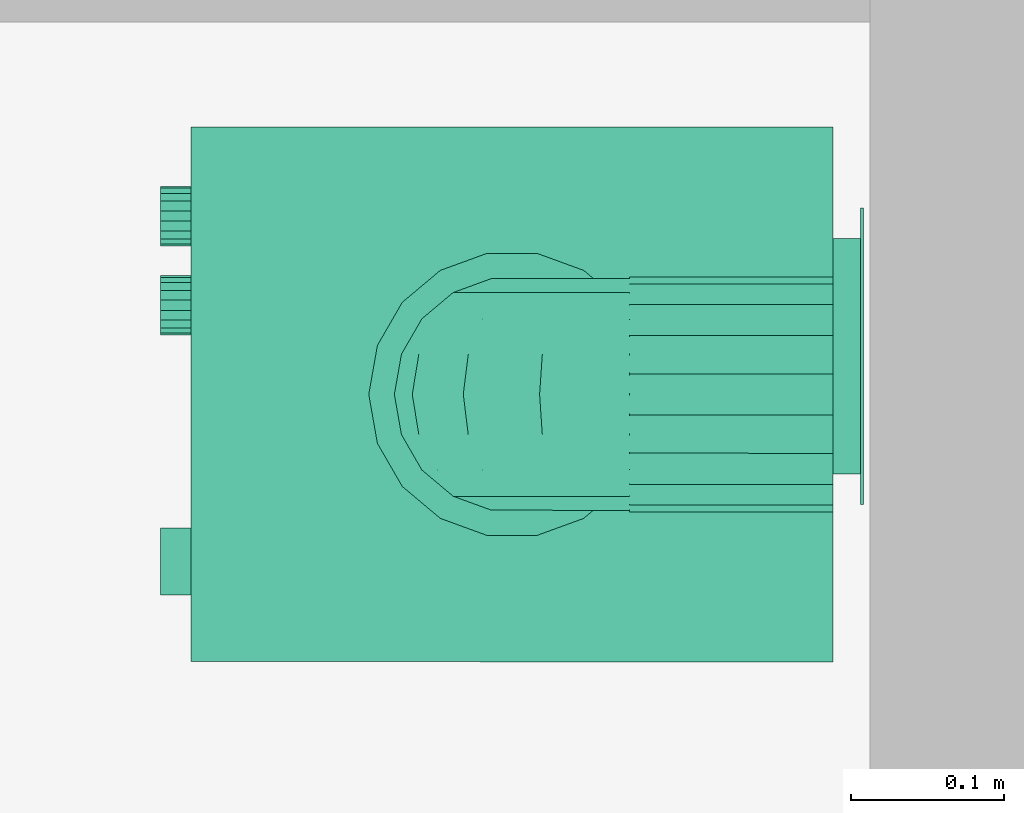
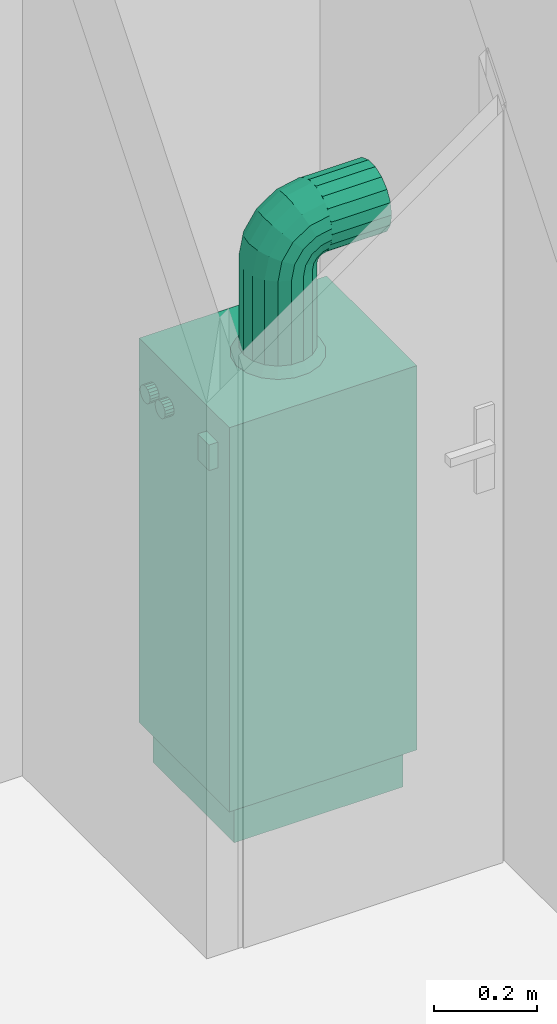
# One storey, part 108 of 164: 1 distribution element.
"""IFC2X3 building model written with IfcOpenShell, lengths in millimetres."""

from ifc_helpers import new_model, entity, si_unit, converted_unit, derived_unit, money_unit, direction, frame, origin_with_axes, place, context, subcontext, project, spatial, open_shell, faceted_brep, surface_model, source, transform, mapped, type_object, element, save


model = new_model("IFC2X3")

# Units and contexts
model_context = context("Model", 3, precision=0.01, world=origin_with_axes(), true_north=direction((0.0, 1.0)))
body_context = subcontext(model_context, "Body", "Model", "MODEL_VIEW")
ifc_project = project(units=[si_unit("LENGTHUNIT", "METRE", prefix="MILLI"), si_unit("AREAUNIT", "SQUARE_METRE"), si_unit("VOLUMEUNIT", "CUBIC_METRE"), converted_unit("PLANEANGLEUNIT", "DEGREE", entity("IfcPlaneAngleMeasure", 0.0174532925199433), si_unit("PLANEANGLEUNIT", "RADIAN"), dimensions=[0, 0, 0, 0, 0, 0, 0]), money_unit("USD"), converted_unit("TIMEUNIT", "Year", entity("IfcTimeMeasure", 31557600.0), si_unit("TIMEUNIT", "SECOND"), dimensions=[0, 0, 1, 0, 0, 0, 0]), si_unit("MASSUNIT", "GRAM", prefix="KILO"), si_unit("THERMODYNAMICTEMPERATUREUNIT", "DEGREE_CELSIUS"), si_unit("LUMINOUSINTENSITYUNIT", "LUMEN"), si_unit("ENERGYUNIT", "JOULE", prefix="MEGA"), derived_unit("THERMALCONDUCTANCEUNIT", [(si_unit("POWERUNIT", "WATT"), 1), (si_unit("LENGTHUNIT", "METRE"), -1), (si_unit("THERMODYNAMICTEMPERATUREUNIT", "KELVIN"), -1)]), derived_unit("SPECIFICHEATCAPACITYUNIT", [(si_unit("ENERGYUNIT", "JOULE"), 1), (si_unit("MASSUNIT", "GRAM", prefix="KILO"), -1), (si_unit("THERMODYNAMICTEMPERATUREUNIT", "KELVIN"), -1)]), derived_unit("MASSDENSITYUNIT", [(si_unit("MASSUNIT", "GRAM", prefix="KILO"), 1), (si_unit("VOLUMEUNIT", "CUBIC_METRE"), -1)])], contexts=[model_context])

# Site, building, storey
site_placement = place(None, origin_with_axes())
site = spatial("IfcSite", under=ifc_project, at=site_placement, Name="Site", CompositionType="ELEMENT")
building_placement = place(site_placement, origin_with_axes())
building = spatial("IfcBuilding", under=site, at=building_placement, Name="Bâtiment", CompositionType="ELEMENT")
storey_placement = place(building_placement, frame((0.0, 0.0, 5750.0), z_axis=(0.0, 0.0, 1.0), x_axis=(1.0, 0.0, 0.0)))
storey = spatial("IfcBuildingStorey", under=building, at=storey_placement, Name="Etage1", CompositionType="ELEMENT", Elevation=5750.0)

# Distribution element
distribution_element_type = type_object("IfcDistributionElementType", Name="Chaudière à gaz 27")
shared_shape = source(origin_with_axes(), body_context, "Body", "SurfaceModel", [
    surface_model("IfcShellBasedSurfaceModel", [(-200.0, 420.0, 34.90909090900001), (-200.0, 438.0, 34.90909090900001), (-180.0709335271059, 438.0, 37.53280228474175), (-180.0709335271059, 420.0, 37.53280228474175), (-219.9290664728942, 420.0, 37.53280228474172), (-219.9290664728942, 438.0, 37.53280228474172), (-161.5, 438.0, 45.22513481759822), (-161.5, 420.0, 45.22513481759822), (-238.5000000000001, 420.0, 45.22513481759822), (-238.5000000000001, 438.0, 45.22513481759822), (-145.5527778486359, 438.0, 57.46186875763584), (-145.5527778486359, 420.0, 57.46186875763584), (-254.4472221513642, 420.0, 57.46186875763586), (-254.4472221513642, 438.0, 57.46186875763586), (-133.3160439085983, 438.0, 73.409090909), (-133.3160439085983, 420.0, 73.409090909), (-266.6839560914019, 420.0, 73.40909090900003), (-266.6839560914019, 438.0, 73.40909090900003), (-125.6237113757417, 438.0, 91.9800244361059), (-125.6237113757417, 420.0, 91.9800244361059), (-274.3762886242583, 420.0, 91.98002443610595), (-274.3762886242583, 438.0, 91.98002443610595), (-123.0, 438.0, 111.909090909), (-123.0, 420.0, 111.909090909), (-277.0, 420.0, 111.909090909), (-277.0, 438.0, 111.909090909), (-125.6237113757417, 438.0, 131.8381573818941), (-125.6237113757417, 420.0, 131.8381573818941), (-274.3762886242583, 420.0, 131.8381573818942), (-274.3762886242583, 438.0, 131.8381573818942), (-133.3160439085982, 438.0, 150.409090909), (-133.3160439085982, 420.0, 150.409090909), (-266.6839560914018, 420.0, 150.4090909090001), (-266.6839560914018, 438.0, 150.4090909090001), (-145.5527778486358, 438.0, 166.3563130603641), (-145.5527778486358, 420.0, 166.3563130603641), (-254.4472221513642, 420.0, 166.3563130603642), (-254.4472221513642, 438.0, 166.3563130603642), (-161.5, 438.0, 178.5930470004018), (-161.5, 420.0, 178.5930470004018), (-238.5, 420.0, 178.5930470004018), (-238.5, 438.0, 178.5930470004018), (-180.0709335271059, 438.0, 186.2853795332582), (-180.0709335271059, 420.0, 186.2853795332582), (-219.929066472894, 420.0, 186.2853795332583), (-219.929066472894, 438.0, 186.2853795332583), (-200.0, 438.0, 188.909090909), (-200.0, 420.0, 188.909090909)], [open_shell([[[0, 1, 2, 3]], [[4, 5, 1, 0]], [[3, 2, 6, 7]], [[8, 9, 5, 4]], [[7, 6, 10, 11]], [[12, 13, 9, 8]], [[11, 10, 14, 15]], [[16, 17, 13, 12]], [[15, 14, 18, 19]], [[20, 21, 17, 16]], [[19, 18, 22, 23]], [[24, 25, 21, 20]], [[23, 22, 26, 27]], [[28, 29, 25, 24]], [[27, 26, 30, 31]], [[32, 33, 29, 28]], [[31, 30, 34, 35]], [[36, 37, 33, 32]], [[35, 34, 38, 39]], [[40, 41, 37, 36]], [[39, 38, 42, 43]], [[44, 45, 41, 40]], [[43, 42, 46, 47]], [[47, 46, 45, 44]]])]),
    faceted_brep([(-200.0, 438.0, 14.909090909), (-200.0, 440.0, 14.909090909), (-174.8945526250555, 440.0, 18.21428575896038), (-174.8945526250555, 438.0, 18.21428575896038), (-225.1054473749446, 438.0, 18.21428575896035), (-225.1054473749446, 440.0, 18.21428575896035), (-248.5000000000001, 440.0, 27.90462674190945), (-268.5893577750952, 440.0, 43.31973313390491), (-284.0044641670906, 440.0, 63.40909090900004), (-293.6948051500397, 440.0, 86.80364353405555), (-297.0000000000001, 440.0, 111.909090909), (-293.6948051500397, 440.0, 137.0145382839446), (-284.0044641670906, 440.0, 160.4090909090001), (-268.5893577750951, 440.0, 180.4984486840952), (-248.5, 440.0, 195.9135550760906), (-225.1054473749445, 440.0, 205.6038960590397), (-199.9999999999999, 440.0, 208.909090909), (-174.8945526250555, 440.0, 205.6038960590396), (-151.5, 440.0, 195.9135550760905), (-131.4106422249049, 440.0, 180.4984486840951), (-115.9955358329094, 440.0, 160.409090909), (-106.3051948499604, 440.0, 137.0145382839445), (-103.0, 440.0, 111.909090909), (-106.3051948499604, 440.0, 86.80364353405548), (-115.9955358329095, 440.0, 63.40909090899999), (-131.4106422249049, 440.0, 43.31973313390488), (-151.5, 440.0, 27.90462674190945), (-200.0, 440.0, 34.90909090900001), (-180.0709335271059, 440.0, 37.53280228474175), (-161.5, 440.0, 45.22513481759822), (-145.5527778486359, 440.0, 57.46186875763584), (-133.3160439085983, 440.0, 73.409090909), (-125.6237113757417, 440.0, 91.9800244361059), (-123.0, 440.0, 111.909090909), (-125.6237113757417, 440.0, 131.8381573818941), (-133.3160439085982, 440.0, 150.409090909), (-145.5527778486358, 440.0, 166.3563130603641), (-161.5, 440.0, 178.5930470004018), (-180.0709335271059, 440.0, 186.2853795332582), (-200.0, 440.0, 188.909090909), (-219.929066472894, 440.0, 186.2853795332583), (-238.5, 440.0, 178.5930470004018), (-254.4472221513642, 440.0, 166.3563130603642), (-266.6839560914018, 440.0, 150.4090909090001), (-274.3762886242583, 440.0, 131.8381573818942), (-277.0, 440.0, 111.909090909), (-274.3762886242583, 440.0, 91.98002443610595), (-266.6839560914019, 440.0, 73.40909090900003), (-254.4472221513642, 440.0, 57.46186875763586), (-238.5000000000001, 440.0, 45.22513481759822), (-219.9290664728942, 440.0, 37.53280228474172), (-151.5, 438.0, 27.90462674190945), (-131.4106422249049, 438.0, 43.31973313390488), (-115.9955358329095, 438.0, 63.40909090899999), (-106.3051948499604, 438.0, 86.80364353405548), (-103.0, 438.0, 111.909090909), (-106.3051948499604, 438.0, 137.0145382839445), (-115.9955358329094, 438.0, 160.409090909), (-131.4106422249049, 438.0, 180.4984486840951), (-151.5, 438.0, 195.9135550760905), (-174.8945526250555, 438.0, 205.6038960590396), (-199.9999999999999, 438.0, 208.909090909), (-225.1054473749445, 438.0, 205.6038960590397), (-248.5, 438.0, 195.9135550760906), (-268.5893577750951, 438.0, 180.4984486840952), (-284.0044641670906, 438.0, 160.4090909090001), (-293.6948051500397, 438.0, 137.0145382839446), (-297.0000000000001, 438.0, 111.909090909), (-293.6948051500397, 438.0, 86.80364353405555), (-284.0044641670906, 438.0, 63.40909090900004), (-268.5893577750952, 438.0, 43.31973313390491), (-248.5000000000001, 438.0, 27.90462674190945), (-200.0, 438.0, 34.90909090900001), (-219.9290664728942, 438.0, 37.53280228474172), (-238.5000000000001, 438.0, 45.22513481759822), (-254.4472221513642, 438.0, 57.46186875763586), (-266.6839560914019, 438.0, 73.40909090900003), (-274.3762886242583, 438.0, 91.98002443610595), (-277.0, 438.0, 111.909090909), (-274.3762886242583, 438.0, 131.8381573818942), (-266.6839560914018, 438.0, 150.4090909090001), (-254.4472221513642, 438.0, 166.3563130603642), (-238.5, 438.0, 178.5930470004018), (-219.929066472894, 438.0, 186.2853795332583), (-200.0, 438.0, 188.909090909), (-180.0709335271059, 438.0, 186.2853795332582), (-161.5, 438.0, 178.5930470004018), (-145.5527778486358, 438.0, 166.3563130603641), (-133.3160439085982, 438.0, 150.409090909), (-125.6237113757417, 438.0, 131.8381573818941), (-123.0, 438.0, 111.909090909), (-125.6237113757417, 438.0, 91.9800244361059), (-133.3160439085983, 438.0, 73.409090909), (-145.5527778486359, 438.0, 57.46186875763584), (-161.5, 438.0, 45.22513481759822), (-180.0709335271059, 438.0, 37.53280228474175)], [[[0, 1, 2, 3]], [[4, 5, 1, 0]], [[1, 5, 6, 7, 8, 9, 10, 11, 12, 13, 14, 15, 16, 17, 18, 19, 20, 21, 22, 23, 24, 25, 26, 2], [27, 28, 29, 30, 31, 32, 33, 34, 35, 36, 37, 38, 39, 40, 41, 42, 43, 44, 45, 46, 47, 48, 49, 50]], [[3, 2, 26, 51]], [[0, 3, 51, 52, 53, 54, 55, 56, 57, 58, 59, 60, 61, 62, 63, 64, 65, 66, 67, 68, 69, 70, 71, 4], [72, 73, 74, 75, 76, 77, 78, 79, 80, 81, 82, 83, 84, 85, 86, 87, 88, 89, 90, 91, 92, 93, 94, 95]], [[71, 6, 5, 4]], [[70, 7, 6, 71]], [[69, 8, 7, 70]], [[68, 9, 8, 69]], [[67, 10, 9, 68]], [[66, 11, 10, 67]], [[65, 12, 11, 66]], [[64, 13, 12, 65]], [[63, 14, 13, 64]], [[62, 15, 14, 63]], [[61, 16, 15, 62]], [[60, 17, 16, 61]], [[59, 18, 17, 60]], [[58, 19, 18, 59]], [[57, 20, 19, 58]], [[56, 21, 20, 57]], [[55, 22, 21, 56]], [[54, 23, 22, 55]], [[53, 24, 23, 54]], [[52, 25, 24, 53]], [[51, 26, 25, 52]], [[95, 28, 27, 72]], [[94, 29, 28, 95]], [[93, 30, 29, 94]], [[92, 31, 30, 93]], [[91, 32, 31, 92]], [[90, 33, 32, 91]], [[89, 34, 33, 90]], [[88, 35, 34, 89]], [[87, 36, 35, 88]], [[86, 37, 36, 87]], [[85, 38, 37, 86]], [[84, 39, 38, 85]], [[83, 40, 39, 84]], [[82, 41, 40, 83]], [[81, 42, 41, 82]], [[80, 43, 42, 81]], [[79, 44, 43, 80]], [[78, 45, 44, 79]], [[77, 46, 45, 78]], [[76, 47, 46, 77]], [[75, 48, 47, 76]], [[74, 49, 48, 75]], [[73, 50, 49, 74]], [[72, 27, 50, 73]]]),
    faceted_brep([(-332.5, 21.0, 0.0), (-332.5, 399.0, 0.0), (-17.5, 399.0, 0.0), (-17.5, 21.0, 0.0), (-332.5, 21.0, 90.9090909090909), (-332.5, 399.0, 90.9090909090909), (-17.5, 399.0, 90.9090909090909), (-17.5, 21.0, 90.9090909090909)], [[[0, 1, 2, 3]], [[0, 4, 5, 1]], [[1, 5, 6, 2]], [[2, 6, 7, 3]], [[3, 7, 4, 0]], [[7, 6, 5, 4]]]),
    faceted_brep([(0.0, 420.0, 90.9090909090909), (-350.0, 420.0, 90.90909090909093), (-349.9999999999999, 420.0, 1000.0), (0.0, 420.0, 1000.0), (0.0, 0.0, 90.9090909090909), (-350.0, 0.0, 90.90909090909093), (-349.9999999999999, 0.0, 818.1818181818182), (-349.9999999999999, 21.0, 818.1818181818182), (-349.9999999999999, 21.0, 1000.0), (0.0, 21.0, 1000.0), (0.0, 21.0, 818.1818181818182), (0.0, 0.0, 818.1818181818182)], [[[0, 1, 2, 3]], [[4, 5, 1, 0]], [[1, 5, 6, 7, 8, 2]], [[3, 2, 8, 9]], [[0, 3, 9, 10, 11, 4]], [[11, 6, 5, 4]], [[10, 7, 6, 11]], [[9, 8, 7, 10]]]),
    faceted_brep([(-350.0, 0.0, 818.1818181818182), (-350.0, 21.0, 818.1818181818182), (0.0, 21.0, 818.1818181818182), (0.0, 0.0, 818.1818181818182), (-350.0, 0.0, 1000.0), (-350.0, 21.0, 1000.0), (0.0, 21.0, 1000.0), (0.0, 0.0, 1000.0)], [[[0, 1, 2, 3]], [[0, 4, 5, 1]], [[1, 5, 6, 2]], [[2, 6, 7, 3]], [[3, 7, 4, 0]], [[7, 6, 5, 4]]]),
    faceted_brep([(-251.6051342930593, 0.0, 902.4405174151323), (-252.7777777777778, 0.0, 909.0909090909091), (-251.6051342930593, 0.0, 915.741300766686), (-248.2286419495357, 0.0, 921.5895570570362), (-243.0555555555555, 0.0, 925.9302919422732), (-236.709825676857, 0.0, 928.2399487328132), (-229.9568409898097, 0.0, 928.2399487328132), (-223.6111111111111, 0.0, 925.9302919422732), (-218.438024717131, 0.0, 921.5895570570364), (-215.0615323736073, 0.0, 915.741300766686), (-213.8888888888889, 0.0, 909.0909090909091), (-215.0615323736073, 0.0, 902.4405174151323), (-218.438024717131, 0.0, 896.5922611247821), (-223.6111111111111, 0.0, 892.2515262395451), (-229.9568409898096, 0.0, 889.9418694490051), (-236.709825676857, 0.0, 889.9418694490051), (-243.0555555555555, 0.0, 892.2515262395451), (-248.2286419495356, 0.0, 896.592261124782), (-251.6051342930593, -19.99999999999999, 902.4405174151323), (-252.7777777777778, -19.99999999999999, 909.0909090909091), (-251.6051342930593, -19.99999999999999, 915.741300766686), (-248.2286419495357, -19.99999999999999, 921.5895570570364), (-243.0555555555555, -19.99999999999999, 925.9302919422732), (-236.709825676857, -19.99999999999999, 928.2399487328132), (-229.9568409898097, -19.99999999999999, 928.2399487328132), (-223.6111111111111, -19.99999999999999, 925.9302919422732), (-218.438024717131, -19.99999999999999, 921.5895570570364), (-215.0615323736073, -19.99999999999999, 915.741300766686), (-213.8888888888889, -19.99999999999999, 909.0909090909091), (-215.0615323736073, -19.99999999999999, 902.4405174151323), (-218.438024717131, -19.99999999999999, 896.5922611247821), (-223.6111111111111, -19.99999999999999, 892.2515262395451), (-229.9568409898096, -19.99999999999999, 889.9418694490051), (-236.709825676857, -19.99999999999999, 889.9418694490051), (-243.0555555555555, -19.99999999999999, 892.2515262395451), (-248.2286419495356, -19.99999999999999, 896.592261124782)], [[[0, 1, 2, 3, 4, 5, 6, 7, 8, 9, 10, 11, 12, 13, 14, 15, 16, 17]], [[0, 18, 19, 1]], [[1, 19, 20, 2]], [[2, 20, 21, 3]], [[3, 21, 22, 4]], [[4, 22, 23, 5]], [[5, 23, 24, 6]], [[6, 24, 25, 7]], [[7, 25, 26, 8]], [[8, 26, 27, 9]], [[9, 27, 28, 10]], [[10, 28, 29, 11]], [[11, 29, 30, 12]], [[12, 30, 31, 13]], [[13, 31, 32, 14]], [[14, 32, 33, 15]], [[15, 33, 34, 16]], [[16, 34, 35, 17]], [[17, 35, 18, 0]], [[18, 35, 34, 33, 32, 31, 30, 29, 28, 27, 26, 25, 24, 23, 22, 21, 20, 19]]]),
    faceted_brep([(-309.9384676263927, 0.0, 902.4405174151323), (-311.1111111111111, 0.0, 909.0909090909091), (-309.9384676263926, 0.0, 915.741300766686), (-306.561975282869, 0.0, 921.5895570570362), (-301.3888888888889, 0.0, 925.9302919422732), (-295.0431590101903, 0.0, 928.2399487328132), (-288.290174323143, 0.0, 928.2399487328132), (-281.9444444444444, 0.0, 925.9302919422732), (-276.7713580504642, 0.0, 921.5895570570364), (-273.3948657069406, 0.0, 915.741300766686), (-272.2222222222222, 0.0, 909.0909090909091), (-273.3948657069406, 0.0, 902.4405174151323), (-276.7713580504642, 0.0, 896.5922611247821), (-281.9444444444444, 0.0, 892.2515262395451), (-288.290174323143, 0.0, 889.9418694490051), (-295.0431590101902, 0.0, 889.9418694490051), (-301.3888888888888, 0.0, 892.2515262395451), (-306.561975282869, 0.0, 896.592261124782), (-309.9384676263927, -19.99999999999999, 902.4405174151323), (-311.1111111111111, -19.99999999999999, 909.0909090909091), (-309.9384676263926, -19.99999999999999, 915.741300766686), (-306.561975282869, -19.99999999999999, 921.5895570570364), (-301.3888888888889, -19.99999999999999, 925.9302919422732), (-295.0431590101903, -19.99999999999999, 928.2399487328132), (-288.290174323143, -19.99999999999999, 928.2399487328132), (-281.9444444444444, -19.99999999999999, 925.9302919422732), (-276.7713580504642, -19.99999999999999, 921.5895570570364), (-273.3948657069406, -19.99999999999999, 915.741300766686), (-272.2222222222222, -19.99999999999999, 909.0909090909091), (-273.3948657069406, -19.99999999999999, 902.4405174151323), (-276.7713580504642, -19.99999999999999, 896.5922611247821), (-281.9444444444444, -19.99999999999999, 892.2515262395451), (-288.290174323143, -19.99999999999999, 889.9418694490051), (-295.0431590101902, -19.99999999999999, 889.9418694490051), (-301.3888888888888, -19.99999999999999, 892.2515262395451), (-306.561975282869, -19.99999999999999, 896.592261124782)], [[[0, 1, 2, 3, 4, 5, 6, 7, 8, 9, 10, 11, 12, 13, 14, 15, 16, 17]], [[0, 18, 19, 1]], [[1, 19, 20, 2]], [[2, 20, 21, 3]], [[3, 21, 22, 4]], [[4, 22, 23, 5]], [[5, 23, 24, 6]], [[6, 24, 25, 7]], [[7, 25, 26, 8]], [[8, 26, 27, 9]], [[9, 27, 28, 10]], [[10, 28, 29, 11]], [[11, 29, 30, 12]], [[12, 30, 31, 13]], [[13, 31, 32, 14]], [[14, 32, 33, 15]], [[15, 33, 34, 16]], [[16, 34, 35, 17]], [[17, 35, 18, 0]], [[18, 35, 34, 33, 32, 31, 30, 29, 28, 27, 26, 25, 24, 23, 22, 21, 20, 19]]]),
    faceted_brep([(-87.5, 0.0, 878.7878787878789), (-87.5, 0.0, 939.3939393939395), (-43.75, 0.0, 939.3939393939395), (-43.75, 0.0, 878.7878787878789), (-87.5, -20.0, 878.7878787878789), (-87.5, -19.99999999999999, 939.3939393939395), (-43.75, -19.99999999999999, 939.3939393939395), (-43.75, -20.0, 878.7878787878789)], [[[0, 1, 2, 3]], [[0, 4, 5, 1]], [[1, 5, 6, 2]], [[2, 6, 7, 3]], [[3, 7, 4, 0]], [[7, 6, 5, 4]]]),
    surface_model("IfcShellBasedSurfaceModel", [(-148.6644489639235, 282.356331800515, 1220.0), (-148.6644489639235, 282.356331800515, 1020.0), (-175.0, 287.0, 1020.0), (-175.0, 287.0, 1220.0), (-125.5053540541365, 268.9854221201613, 1220.0), (-125.5053540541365, 268.9854221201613, 1020.0), (-142.9356115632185, 298.0961831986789, 1000.0), (-175.0, 303.7499999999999, 1000.0), (-201.3355510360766, 282.356331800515, 1020.0), (-201.3355510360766, 282.356331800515, 1220.0), (-108.3160439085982, 248.5, 1220.0), (-108.3160439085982, 248.5, 1020.0), (-114.7386615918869, 281.8166665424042, 1000.0), (-207.0643884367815, 298.0961831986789, 1000.0), (-224.4946459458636, 268.9854221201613, 1020.0), (-224.4946459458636, 268.9854221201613, 1220.0), (-99.16980301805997, 223.3709096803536, 1220.0), (-99.16980301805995, 223.3709096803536, 1020.0), (-93.81011839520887, 256.8749999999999, 1000.0), (-235.2613384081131, 281.8166665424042, 1000.0), (-241.6839560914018, 248.4999999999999, 1020.0), (-241.6839560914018, 248.4999999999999, 1220.0), (-99.16980301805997, 196.6290903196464, 1220.0), (-99.16980301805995, 196.6290903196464, 1020.0), (-82.6742731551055, 226.2795166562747, 1000.0), (-256.1898816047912, 256.8749999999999, 1000.0), (-250.83019698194, 223.3709096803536, 1020.0), (-250.8301969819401, 223.3709096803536, 1220.0), (-108.3160439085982, 171.5, 1220.0), (-108.3160439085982, 171.5, 1020.0), (-82.67427315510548, 193.7204833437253, 1000.0), (-267.3257268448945, 226.2795166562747, 1000.0), (-250.83019698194, 196.6290903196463, 1020.0), (-250.83019698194, 196.6290903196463, 1220.0), (-125.5053540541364, 151.0145778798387, 1220.0), (-125.5053540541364, 151.0145778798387, 1020.0), (-93.81011839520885, 163.125, 1000.0), (-267.3257268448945, 193.7204833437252, 1000.0), (-241.6839560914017, 171.4999999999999, 1020.0), (-241.6839560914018, 171.4999999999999, 1220.0), (-148.6644489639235, 137.643668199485, 1220.0), (-148.6644489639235, 137.643668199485, 1020.0), (-114.7386615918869, 138.1833334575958, 1000.0), (-256.1898816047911, 163.1249999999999, 1000.0), (-224.4946459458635, 151.0145778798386, 1020.0), (-224.4946459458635, 151.0145778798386, 1220.0), (-175.0, 133.0, 1220.0), (-175.0, 133.0, 1020.0), (-142.9356115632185, 121.9038168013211, 1000.0), (-235.261338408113, 138.1833334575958, 1000.0), (-201.3355510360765, 137.643668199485, 1020.0), (-201.3355510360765, 137.643668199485, 1220.0), (-175.0, 116.25, 1000.0), (-207.0643884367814, 121.9038168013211, 1000.0)], [open_shell([[[0, 1, 2, 3]], [[4, 5, 1, 0]], [[1, 6, 7, 2]], [[3, 2, 8, 9]], [[10, 11, 5, 4]], [[5, 12, 6, 1]], [[2, 7, 13, 8]], [[9, 8, 14, 15]], [[16, 17, 11, 10]], [[11, 18, 12, 5]], [[8, 13, 19, 14]], [[15, 14, 20, 21]], [[22, 23, 17, 16]], [[17, 24, 18, 11]], [[14, 19, 25, 20]], [[21, 20, 26, 27]], [[28, 29, 23, 22]], [[23, 30, 24, 17]], [[20, 25, 31, 26]], [[27, 26, 32, 33]], [[34, 35, 29, 28]], [[29, 36, 30, 23]], [[26, 31, 37, 32]], [[33, 32, 38, 39]], [[40, 41, 35, 34]], [[35, 42, 36, 29]], [[32, 37, 43, 38]], [[39, 38, 44, 45]], [[46, 47, 41, 40]], [[41, 48, 42, 35]], [[38, 43, 49, 44]], [[45, 44, 50, 51]], [[51, 50, 47, 46]], [[47, 52, 48, 41]], [[44, 49, 53, 50]], [[50, 53, 52, 47]]])]),
    faceted_brep([(-250.83019698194, 196.6290903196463, 1220.0), (-250.83019698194, 203.5081662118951, 1254.583449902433), (-250.83019698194, 228.2143857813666, 1244.349798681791), (-250.83019698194, 223.3709096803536, 1220.0), (-241.6839560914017, 171.4999999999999, 1220.0), (-241.6839560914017, 180.2919139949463, 1264.199936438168), (-250.83019698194, 223.0981169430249, 1283.901883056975), (-250.83019698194, 242.0074387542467, 1264.992561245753), (-241.6839560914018, 248.4999999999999, 1220.0), (-241.6839560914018, 251.4306379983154, 1234.733312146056), (-224.4946459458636, 268.9854221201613, 1220.0), (-201.3355510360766, 282.356331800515, 1220.0), (-175.0, 287.0, 1220.0), (-148.6644489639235, 282.356331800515, 1220.0), (-125.5053540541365, 268.9854221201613, 1220.0), (-108.3160439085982, 248.5, 1220.0), (-99.16980301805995, 223.3709096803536, 1220.0), (-99.16980301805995, 196.6290903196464, 1220.0), (-108.3160439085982, 171.5, 1220.0), (-125.5053540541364, 151.0145778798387, 1220.0), (-148.6644489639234, 137.643668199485, 1220.0), (-175.0, 132.9999999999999, 1220.0), (-201.3355510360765, 137.643668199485, 1220.0), (-224.4946459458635, 151.0145778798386, 1220.0), (-224.4946459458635, 161.3658517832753, 1272.039368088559), (-241.6839560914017, 205.3291667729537, 1301.670833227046), (-250.83019698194, 252.4165500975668, 1303.491833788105), (-250.83019698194, 262.6502013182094, 1278.785614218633), (-241.6839560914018, 259.7763889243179, 1247.223611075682), (-224.4946459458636, 270.3567002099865, 1226.893880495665), (-201.3355510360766, 282.7098099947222, 1221.777054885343), (-148.6644489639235, 282.7098099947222, 1221.777054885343), (-125.5053540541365, 270.3567002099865, 1226.893880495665), (-108.3160439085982, 251.4306379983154, 1234.733312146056), (-99.16980301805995, 228.2143857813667, 1244.349798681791), (-99.16980301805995, 203.5081662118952, 1254.583449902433), (-108.3160439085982, 180.2919139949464, 1264.199936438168), (-125.5053540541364, 161.3658517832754, 1272.039368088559), (-148.6644489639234, 149.0127419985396, 1277.15619369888), (-175.0, 144.7225519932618, 1278.933248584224), (-201.3355510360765, 149.0127419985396, 1277.15619369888), (-224.4946459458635, 190.8437858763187, 1316.156214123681), (-241.6839560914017, 242.8000635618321, 1326.708086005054), (-250.83019698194, 287.0000000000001, 1310.370909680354), (-250.83019698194, 287.0000000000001, 1283.629090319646), (-241.6839560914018, 272.266687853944, 1255.569362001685), (-224.4946459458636, 274.2617698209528, 1232.738230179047), (-201.3355510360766, 283.7164307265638, 1223.283569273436), (-148.6644489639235, 283.7164307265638, 1223.283569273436), (-125.5053540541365, 274.2617698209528, 1232.738230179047), (-108.3160439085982, 259.7763889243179, 1247.223611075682), (-99.16980301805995, 242.0074387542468, 1264.992561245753), (-99.16980301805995, 223.098116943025, 1283.901883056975), (-108.3160439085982, 205.3291667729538, 1301.670833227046), (-125.5053540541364, 190.8437858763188, 1316.156214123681), (-148.6644489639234, 181.3891249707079, 1325.610875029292), (-175.0, 178.1055556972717, 1328.894444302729), (-201.3355510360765, 181.3891249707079, 1325.610875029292), (-224.4946459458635, 234.9606319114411, 1345.634148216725), (-241.6839560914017, 287.0000000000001, 1335.5), (-241.6839560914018, 287.0, 1258.5), (-224.4946459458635, 287.0000000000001, 1355.985422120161), (-201.3355510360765, 287.0000000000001, 1369.356331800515), (-175.0, 287.0000000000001, 1374.0), (-148.6644489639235, 287.0000000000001, 1369.356331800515), (-125.5053540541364, 287.0000000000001, 1355.985422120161), (-108.3160439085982, 287.0000000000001, 1335.5), (-99.16980301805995, 287.0000000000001, 1310.370909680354), (-99.16980301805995, 287.0000000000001, 1283.629090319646), (-108.3160439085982, 287.0, 1258.5), (-125.5053540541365, 287.0, 1238.014577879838), (-148.6644489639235, 287.0, 1224.643668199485), (-201.3355510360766, 287.0, 1224.643668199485), (-224.4946459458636, 287.0, 1238.014577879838), (-224.4946459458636, 280.1061195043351, 1236.643299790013), (-201.3355510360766, 285.2229451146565, 1224.290190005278), (-148.6644489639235, 285.2229451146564, 1224.290190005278), (-125.5053540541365, 280.1061195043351, 1236.643299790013), (-108.3160439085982, 272.266687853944, 1255.569362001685), (-99.16980301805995, 262.6502013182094, 1278.785614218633), (-99.16980301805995, 252.4165500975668, 1303.491833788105), (-108.3160439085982, 242.8000635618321, 1326.708086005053), (-125.5053540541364, 234.9606319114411, 1345.634148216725), (-148.6644489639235, 229.8438063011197, 1357.98725800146), (-175.0, 228.0667514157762, 1362.277448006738), (-201.3355510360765, 229.8438063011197, 1357.98725800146)], [[[0, 1, 2, 3]], [[1, 0, 4, 5]], [[1, 6, 7, 2]], [[8, 3, 2, 9]], [[4, 0, 3, 8, 10, 11, 12, 13, 14, 15, 16, 17, 18, 19, 20, 21, 22, 23]], [[5, 4, 23, 24]], [[6, 1, 5, 25]], [[7, 6, 26, 27]], [[2, 7, 28, 9]], [[29, 10, 8, 9]], [[10, 29, 30, 11]], [[11, 30, 12]], [[31, 13, 12]], [[13, 31, 32, 14]], [[33, 15, 14, 32]], [[15, 33, 34, 16]], [[35, 17, 16, 34]], [[18, 17, 35, 36]], [[37, 19, 18, 36]], [[20, 19, 37, 38]], [[39, 21, 20, 38]], [[22, 21, 39, 40]], [[24, 23, 22, 40]], [[25, 5, 24, 41]], [[6, 25, 42, 26]], [[27, 26, 43, 44]], [[45, 28, 7, 27]], [[46, 29, 9, 28]], [[29, 46, 47, 30]], [[30, 47, 12]], [[48, 31, 12]], [[31, 48, 49, 32]], [[32, 49, 50, 33]], [[34, 33, 50, 51]], [[52, 35, 34, 51]], [[35, 52, 53, 36]], [[54, 37, 36, 53]], [[38, 37, 54, 55]], [[56, 39, 38, 55]], [[57, 40, 39, 56]], [[41, 24, 40, 57]], [[42, 25, 41, 58]], [[26, 42, 59, 43]], [[60, 44, 43, 59, 61, 62, 63, 64, 65, 66, 67, 68, 69, 70, 71, 12, 72, 73]], [[45, 27, 44, 60]], [[28, 45, 74, 46]], [[46, 74, 75, 47]], [[47, 75, 12]], [[76, 48, 12]], [[48, 76, 77, 49]], [[49, 77, 78, 50]], [[50, 78, 79, 51]], [[52, 51, 79, 80]], [[53, 52, 80, 81]], [[82, 54, 53, 81]], [[55, 54, 82, 83]], [[56, 55, 83, 84]], [[85, 57, 56, 84]], [[58, 41, 57, 85]], [[59, 42, 58, 61]], [[61, 58, 85, 62]], [[62, 85, 84, 63]], [[84, 83, 64, 63]], [[82, 65, 64, 83]], [[65, 82, 81, 66]], [[81, 80, 67, 66]], [[80, 79, 68, 67]], [[79, 78, 69, 68]], [[77, 70, 69, 78]], [[77, 76, 71, 70]], [[76, 12, 71]], [[75, 72, 12]], [[74, 73, 72, 75]], [[45, 60, 73, 74]]]),
    surface_model("IfcShellBasedSurfaceModel", [(-102.6436681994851, 420.0, 1323.335551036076), (-102.643668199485, 287.0, 1323.335551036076), (-97.99999999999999, 287.0, 1297.0), (-98.0, 420.0, 1297.0), (-116.0145778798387, 420.0, 1346.494645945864), (-116.0145778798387, 287.0, 1346.494645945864), (-102.643668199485, 287.0, 1270.664448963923), (-102.643668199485, 420.0, 1270.664448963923), (-136.5, 420.0, 1363.683956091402), (-136.5, 287.0, 1363.683956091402), (-116.0145778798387, 287.0, 1247.505354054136), (-116.0145778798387, 420.0, 1247.505354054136), (-161.6290903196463, 420.0, 1372.83019698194), (-161.6290903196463, 287.0, 1372.83019698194), (-136.5, 287.0, 1230.316043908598), (-136.5, 420.0, 1230.316043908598), (-188.3709096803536, 420.0, 1372.83019698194), (-188.3709096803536, 287.0, 1372.83019698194), (-161.6290903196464, 287.0, 1221.16980301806), (-161.6290903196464, 420.0, 1221.16980301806), (-213.5, 420.0, 1363.683956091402), (-213.5, 287.0, 1363.683956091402), (-188.3709096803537, 287.0, 1221.16980301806), (-188.3709096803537, 420.0, 1221.16980301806), (-233.9854221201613, 420.0, 1346.494645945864), (-233.9854221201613, 287.0, 1346.494645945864), (-213.5, 287.0, 1230.316043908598), (-213.5000000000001, 420.0, 1230.316043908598), (-247.356331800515, 420.0, 1323.335551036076), (-247.3563318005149, 287.0, 1323.335551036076), (-233.9854221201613, 287.0, 1247.505354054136), (-233.9854221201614, 420.0, 1247.505354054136), (-252.0, 420.0, 1297.0), (-252.0, 287.0, 1297.0), (-247.356331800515, 287.0, 1270.664448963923), (-247.356331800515, 420.0, 1270.664448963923)], [open_shell([[[0, 1, 2, 3]], [[4, 5, 1, 0]], [[3, 2, 6, 7]], [[8, 9, 5, 4]], [[7, 6, 10, 11]], [[12, 13, 9, 8]], [[11, 10, 14, 15]], [[16, 17, 13, 12]], [[15, 14, 18, 19]], [[20, 21, 17, 16]], [[19, 18, 22, 23]], [[24, 25, 21, 20]], [[23, 22, 26, 27]], [[28, 29, 25, 24]], [[27, 26, 30, 31]], [[32, 33, 29, 28]], [[31, 30, 34, 35]], [[35, 34, 33, 32]]])]),
])
distribution_element_placement = place(storey_placement, frame((2233572.202905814, -652831.4237934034, 0.0), z_axis=(0.0, 0.0, 1.0), x_axis=(-0.0001702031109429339, -0.9999999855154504, 0.0)))
element("IfcDistributionElement", 1, at=distribution_element_placement, inside=storey, type_object=distribution_element_type, Name="Obj.-003", context=body_context, shape_type="MappedRepresentation", body=[
    mapped(shared_shape, transform((0.0, 0.0, 0.0))),
])

save(model, "model.ifc")
